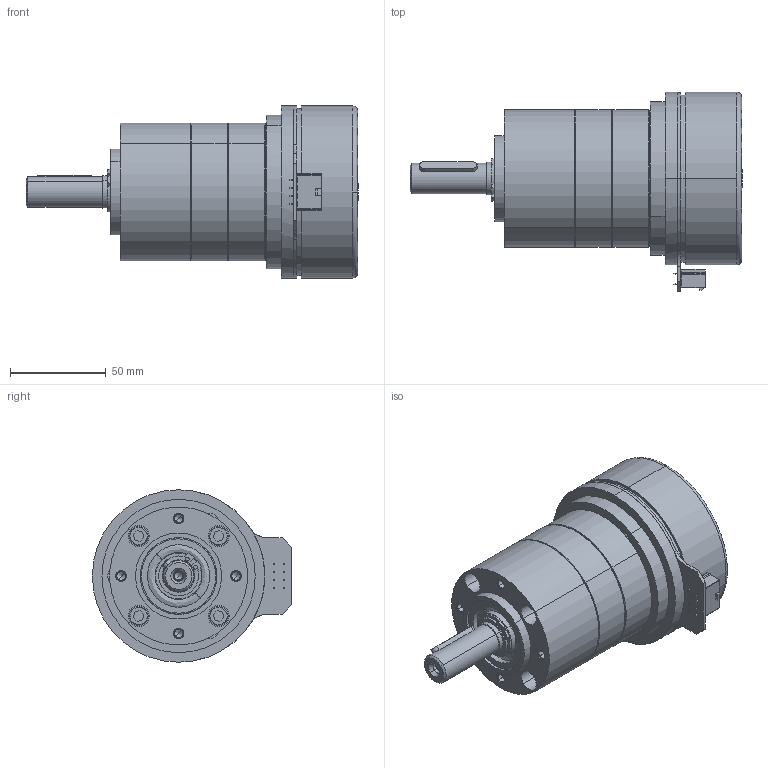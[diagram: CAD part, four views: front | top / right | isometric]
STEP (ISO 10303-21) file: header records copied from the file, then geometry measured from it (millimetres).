
FILE_DESCRIPTION (( 'STEP AP214' ), '1' );
FILE_NAME ('6240902_EC90flat 400W_PM72 - S48 2 étages.STEP', '2019-09-20T09:54:35', ( '' ), ( '' ), 'SwSTEP 2.0', 'SolidWorks 2018', '' );
FILE_SCHEMA (( 'AUTOMOTIVE_DESIGN' ));
Length unit declared in the file: millimetre
Products named in the file (16): 6240902_EC90flat 400W_PM72 - S48 2 étages; 8006242_DICHTRING_5; 8004806_ZAHNKRANZ_Z46_5; PM72_2 Ｕages; EC90fl-400W-V1; 5966040_ADAPT-EC90fl-PM72; 8004822_LAGERFLANSCH_5; D912_M6X40_1; D625-6203-2RS_5; 1199388_5; 5X5X30_D6885A_5; 8006638_ABTRIEB_LK1_AF0_5; 8001939_LAGERBOLZEN_5; DIN998_PS_17X24X1_5; D471_17X1_5_5; 8004800_ANLAUFSCHEIBE_Z23_1ST_1
Assembly tree (25 placements, depth 4):
  6240902_EC90flat 400W_PM72 - S48 2 étages
    PM72_2 Ｕages
      8004822_LAGERFLANSCH_5
      D625-6203-2RS_5  x2
      DIN998_PS_17X24X1_5  x2
      1199388_5
        8006638_ABTRIEB_LK1_AF0_5
        8001939_LAGERBOLZEN_5  x3
      D471_17X1_5_5
      5X5X30_D6885A_5
      8006242_DICHTRING_5  x3
      8004806_ZAHNKRANZ_Z46_5  x2
      D912_M6X40_1  x4
      8004800_ANLAUFSCHEIBE_Z23_1ST_1
    5966040_ADAPT-EC90fl-PM72
    EC90fl-400W-V1
Bounding box: 173.25 x 104 x 90 mm (x, y, z)
Volume: 409018 mm3; surface area: 156815.7 mm2
Topology: 21 solids, 38 shells, 1262 faces, 3354 edges, 2201 vertices
Faces by surface type: plane 577, cylinder 536, cone 85, bspline 64
Entity records: 31451 total; most frequent: CARTESIAN_POINT 6383, DIRECTION 5018, ORIENTED_EDGE 4734, EDGE_CURVE 2379, AXIS2_PLACEMENT_3D 1778, VERTEX_POINT 1569, LINE 1462, VECTOR 1462
